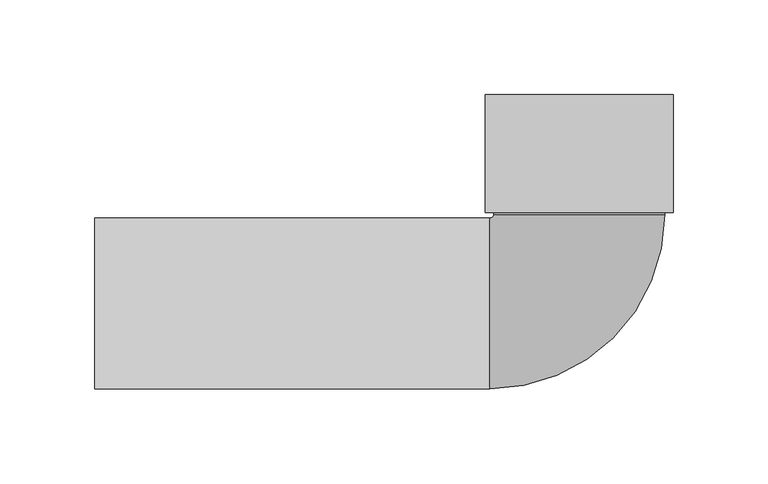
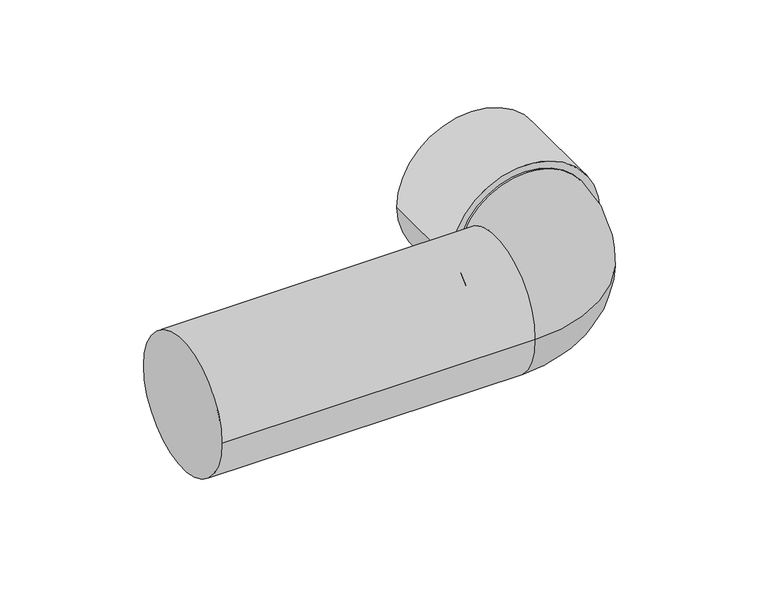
"""IFC4 building model written with IfcOpenShell, lengths in millimetres: pipe fitting geometry, NLRS_52_PIF_UN_PE aansluitbocht 90° voor wc, uittrekbaar_geb : DN90-100 / ø90-110."""

import ifcopenshell
import ifcopenshell.guid

model = None  # the IFC model being written
_history = None  # IfcOwnerHistory: only IFC2X3 demands one
_inside = {}  # id of a spatial element -> (the spatial element, [elements in it])
_under = {}  # id of a project, library or spatial element -> (it, [spatial elements below it])
_declared = {}  # id of a project -> (the project, [libraries it declares])
_typed = {}  # id of a type object -> (the type object, [elements of that type])
_made_of = {}  # id of a material, layer set ... -> (it, [elements and type objects made of it])


def new_model(schema):
    """Start an empty IFC model of exactly this schema.

    Asked for "IFC4X3", IfcOpenShell would pick the latest addendum, in which some entities
    have other attributes; the version numbers below select the first issue.
    IFC2X3 requires an IfcOwnerHistory on every rooted entity: one is made here for all.
    """
    global model, _history
    if schema == "IFC4X3":
        model = ifcopenshell.file(schema_version=(4, 3, 0, 0))
    else:
        model = ifcopenshell.file(schema=schema)
    _inside.clear()
    _under.clear()
    _declared.clear()
    _typed.clear()
    _made_of.clear()
    _history = None
    if model.schema == "IFC2X3":
        org = make("IfcOrganization", Name="unknown")
        user = make(
            "IfcPersonAndOrganization",
            ThePerson=make("IfcPerson", FamilyName="unknown"),
            TheOrganization=org,
        )
        app = make(
            "IfcApplication",
            ApplicationDeveloper=org,
            Version="unknown",
            ApplicationFullName="unknown",
            ApplicationIdentifier="unknown",
        )
        _history = make(
            "IfcOwnerHistory",
            OwningUser=user,
            OwningApplication=app,
            ChangeAction="ADDED",
            CreationDate=0,
        )
    return model


def make(cls, **values):
    """One entity of the class cls with the attributes given. An attribute that is None is left unset."""
    return model.create_entity(
        cls, **{name: value for name, value in values.items() if value is not None}
    )


def rooted(cls, **values):
    """An entity with a GlobalId (a new one), such as an element, a storey or a relation."""
    return make(cls, GlobalId=ifcopenshell.guid.new(), OwnerHistory=_history, **values)


def si_unit(unit_type, name, prefix=None):
    """IfcSIUnit, for example si_unit("LENGTHUNIT", "METRE", prefix="MILLI")."""
    return make("IfcSIUnit", UnitType=unit_type, Prefix=prefix, Name=name)


def assignment(units):
    """IfcUnitAssignment: the units of a project."""
    return None if units is None else make("IfcUnitAssignment", Units=units)


def point(xyz):
    """IfcCartesianPoint."""
    return None if xyz is None else make("IfcCartesianPoint", Coordinates=xyz)


def direction(xyz):
    """IfcDirection."""
    return None if xyz is None else make("IfcDirection", DirectionRatios=xyz)


def frame(location, z_axis=None, x_axis=None):
    """IfcAxis2Placement3D, a coordinate frame: its origin and axes. An axis left out is left unset."""
    return make(
        "IfcAxis2Placement3D",
        Location=point(location),
        Axis=direction(z_axis),
        RefDirection=direction(x_axis),
    )


def frame_2d(location, x_axis=None):
    """IfcAxis2Placement2D, a coordinate frame in the plane: its origin and x axis."""
    return make(
        "IfcAxis2Placement2D", Location=point(location), RefDirection=direction(x_axis)
    )


def origin():
    """The frame at (0, 0, 0) with its axes left unset."""
    return frame((0.0, 0.0, 0.0))


def origin_2d():
    """The frame at (0, 0) in the plane with its x axis left unset."""
    return frame_2d((0.0, 0.0))


def place(relative_to, where):
    """IfcLocalPlacement: puts the frame where relative to a parent placement (None: the world)."""
    return make(
        "IfcLocalPlacement", PlacementRelTo=relative_to, RelativePlacement=where
    )


def context(
    kind, dimensions, precision=None, world=None, true_north=None, identifier=None
):
    """IfcGeometricRepresentationContext, for example the 3D "Model" context."""
    return make(
        "IfcGeometricRepresentationContext",
        ContextIdentifier=identifier,
        ContextType=kind,
        CoordinateSpaceDimension=dimensions,
        Precision=precision,
        WorldCoordinateSystem=world,
        TrueNorth=true_north,
    )


def project(units=None, contexts=None):
    """IfcProject with its units and contexts."""
    return rooted(
        "IfcProject",
        Name="project",
        RepresentationContexts=contexts,
        UnitsInContext=assignment(units),
    )


def spatial(cls, under=None, at=None, **own):
    """A site, building, storey or space (cls), placed at a placement, below another one or the project."""
    s = rooted(cls, ObjectPlacement=at, **own)
    if under is not None:
        _under.setdefault(under.id(), (under, []))[1].append(s)
    return s


def circle_curve(where, radius):
    """IfcCircle in the frame where."""
    return make("IfcCircle", Position=where, Radius=radius)


def ellipse_curve(where, semi_axis1, semi_axis2):
    """IfcEllipse in the frame where."""
    return make(
        "IfcEllipse", Position=where, SemiAxis1=semi_axis1, SemiAxis2=semi_axis2
    )


def trimmed(basis, trim1, trim2, sense, master):
    """IfcTrimmedCurve: the piece of a basis curve between two trims."""
    return make(
        "IfcTrimmedCurve",
        BasisCurve=basis,
        Trim1=trim1,
        Trim2=trim2,
        SenseAgreement=sense,
        MasterRepresentation=master,
    )


def segment(curve, same_sense, transition):
    """IfcCompositeCurveSegment."""
    return make(
        "IfcCompositeCurveSegment",
        Transition=transition,
        SameSense=same_sense,
        ParentCurve=curve,
    )


def composite_curve(segments, self_intersect=None):
    """IfcCompositeCurve: segments joined end to end."""
    return make("IfcCompositeCurve", Segments=segments, SelfIntersect=self_intersect)


def outline(outer, holes=None, kind="AREA"):
    """IfcArbitraryClosedProfileDef: a profile drawn as a closed curve; with holes, ...WithVoids."""
    if holes is None:
        return make("IfcArbitraryClosedProfileDef", ProfileType=kind, OuterCurve=outer)
    return make(
        "IfcArbitraryProfileDefWithVoids",
        ProfileType=kind,
        OuterCurve=outer,
        InnerCurves=holes,
    )


def extrude(swept, where, along, depth):
    """IfcExtrudedAreaSolid: the profile swept, set in the frame where, extruded along a direction by depth."""
    return make(
        "IfcExtrudedAreaSolid",
        SweptArea=swept,
        Position=where,
        ExtrudedDirection=direction(along),
        Depth=depth,
    )


def shape(context_of_items, identifier, shape_type, items):
    """IfcShapeRepresentation: the items that make up one representation, for example the "Body"."""
    return make(
        "IfcShapeRepresentation",
        ContextOfItems=context_of_items,
        RepresentationIdentifier=identifier,
        RepresentationType=shape_type,
        Items=items,
    )


def source(mapping_origin, context_of_items, identifier, shape_type, items):
    """IfcRepresentationMap: a shape defined once, which mapped items show again and again."""
    return make(
        "IfcRepresentationMap",
        MappingOrigin=mapping_origin,
        MappedRepresentation=shape(context_of_items, identifier, shape_type, items),
    )


def transform(
    local_origin,
    x_axis=None,
    y_axis=None,
    z_axis=None,
    scale=None,
    scale2=None,
    scale3=None,
    uniform=True,
):
    """IfcCartesianTransformationOperator3D, or its non-uniform kind. x_axis, y_axis, z_axis: its Axis1, 2, 3."""
    if uniform:
        return make(
            "IfcCartesianTransformationOperator3D",
            Axis1=direction(x_axis),
            Axis2=direction(y_axis),
            LocalOrigin=point(local_origin),
            Scale=scale,
            Axis3=direction(z_axis),
        )
    return make(
        "IfcCartesianTransformationOperator3DnonUniform",
        Axis1=direction(x_axis),
        Axis2=direction(y_axis),
        LocalOrigin=point(local_origin),
        Scale=scale,
        Axis3=direction(z_axis),
        Scale2=scale2,
        Scale3=scale3,
    )


def mapped(mapping_source, mapping_target):
    """IfcMappedItem: shows the shape of a source again, moved by a transform."""
    return make(
        "IfcMappedItem", MappingSource=mapping_source, MappingTarget=mapping_target
    )


def made_of(thing, what):
    """Note that an element or type object is made of a material, layer set ...; save() writes the relation."""
    if what is not None:
        _made_of.setdefault(what.id(), (what, []))[1].append(thing)
    return thing


def element(
    cls,
    number,
    at=None,
    inside=None,
    cuts=None,
    type_object=None,
    material=None,
    context=None,
    identifier="Body",
    shape_type=None,
    held_by="IfcProductDefinitionShape",
    body=None,
    shapes=None,
    **own,
):
    """One element of the class cls, such as IfcWall. Its Tag is "e" and its number.

    at: its placement. inside: the storey or other place that contains it. cuts: it is an
    opening in that element (IfcRelVoidsElement). A single representation is given by context,
    identifier, shape_type and body (its items); several are given by shapes. held_by: the class
    of the entity that holds the representations. save() writes the other relations.
    """
    e = rooted(cls, Tag="e%d" % number, ObjectPlacement=at, **own)
    if body is not None:
        shapes = [shape(context, identifier, shape_type, body)]
    if shapes is not None:
        e.Representation = make(held_by, Representations=shapes)
    if inside is not None:
        _inside.setdefault(inside.id(), (inside, []))[1].append(e)
    if cuts is not None:
        rooted(
            "IfcRelVoidsElement", RelatingBuildingElement=cuts, RelatedOpeningElement=e
        )
    if type_object is not None:
        _typed.setdefault(type_object.id(), (type_object, []))[1].append(e)
    return made_of(e, material)


def aggregate(whole, parts):
    """IfcRelAggregates: a whole, such as a stair, and the parts it consists of."""
    return rooted("IfcRelAggregates", RelatingObject=whole, RelatedObjects=parts)


def save(model, path):
    """Write the relations noted so far, then the file.

    IfcRelAggregates (storeys below a building ...), IfcRelContainedInSpatialStructure (elements
    in a storey), IfcRelDefinesByType, IfcRelAssociatesMaterial and IfcRelDeclares: one each for
    every whole, place, type object, material and project.
    """
    for whole, parts in _under.values():
        aggregate(whole, parts)
    for where, things in _inside.values():
        rooted(
            "IfcRelContainedInSpatialStructure",
            RelatedElements=things,
            RelatingStructure=where,
        )
    for kind, things in _typed.values():
        rooted("IfcRelDefinesByType", RelatedObjects=things, RelatingType=kind)
    for what, things in _made_of.values():
        rooted("IfcRelAssociatesMaterial", RelatedObjects=things, RelatingMaterial=what)
    for by, libraries in _declared.values():
        rooted("IfcRelDeclares", RelatingContext=by, RelatedDefinitions=libraries)
    model.write(path)


def plane_surface(at):
    """IfcPlane: the flat surface through the origin of the frame at, square to its z axis."""
    return make("IfcPlane", Position=at)


def cylinder_surface(at, radius):
    """IfcCylindricalSurface: all points at the distance radius from the z axis of the frame at."""
    return make("IfcCylindricalSurface", Position=at, Radius=radius)


def revolved_surface(curve, axis_point, axis_direction):
    """IfcSurfaceOfRevolution: the curve turned about the line through axis_point along axis_direction."""
    return make(
        "IfcSurfaceOfRevolution",
        SweptCurve=make("IfcArbitraryOpenProfileDef", ProfileType="CURVE", Curve=curve),
        AxisPosition=make("IfcAxis1Placement", Location=point(axis_point), Axis=direction(axis_direction)),
    )


def advanced_brep(points, edges, surfaces, faces):
    """IfcAdvancedBrep: a solid bounded by faces that lie on surfaces and meet in shared edges.

    An edge is (start, end): straight between two places in points (the first is 0);
    or (start, end, curve); or (start, end, curve, False) where it runs against its curve.
    A face is (place in surfaces, loops), or (place, loops, False) where it looks against
    its surface's normal. A loop lists edges by number (the first is 1), with a minus sign
    where the edge is run from its end to its start. The first loop is the outer one.
    """
    corners = [point(p) for p in points]
    vertices = [make("IfcVertexPoint", VertexGeometry=c) for c in corners]
    made = []
    for start, end, *more in edges:
        made.append(
            make(
                "IfcEdgeCurve",
                EdgeStart=vertices[start],
                EdgeEnd=vertices[end],
                EdgeGeometry=more[0] if more else make("IfcPolyline", Points=[corners[start], corners[end]]),
                SameSense=more[1] if len(more) > 1 else True,
            )
        )
    hull = []
    for where, loops, *sense in faces:
        bounds = []
        for j, loop in enumerate(loops):
            ring = [make("IfcOrientedEdge", EdgeElement=made[abs(k) - 1], Orientation=k > 0) for k in loop]
            bounds.append(
                make(
                    "IfcFaceOuterBound" if j == 0 else "IfcFaceBound",
                    Bound=make("IfcEdgeLoop", EdgeList=ring),
                    Orientation=True,
                )
            )
        hull.append(make("IfcAdvancedFace", Bounds=bounds, FaceSurface=surfaces[where], SameSense=sense[0] if sense else True))
    return make("IfcAdvancedBrep", Outer=make("IfcClosedShell", CfsFaces=hull))


def pipe_fitting_fa588625(model_context):
    return source(origin(), model_context, "Body", "SolidModel", [
        advanced_brep(
        [(45.0, 48.0, 0.0), (-45.0, 48.0, 0.0), (-45.0, 47.0, 0.0), (0.0, 47.0, 45.0), (45.0, 47.0, 0.0), (0.0, 47.0, -45.0), (-47.0, 45.0, 0.0), (-47.0, -45.0, 0.0), (-255.0, -45.0, 0.0), (-255.0, 45.0, 0.0)],
        [
            (0, 1, circle_curve(frame((0.0, 48.0, 0.0), z_axis=(0.0, 1.0, 0.0), x_axis=(-1.0, 0.0, 0.0)), 45.0)),
            (1, 0, circle_curve(frame((0.0, 48.0, 0.0), z_axis=(0.0, 1.0, 0.0), x_axis=(-1.0, 0.0, 0.0)), 45.0)),
            (1, 2),
            (2, 3, circle_curve(frame((0.0, 47.0, 0.0), z_axis=(0.0, 1.0, 0.0), x_axis=(-1.0, 0.0, 0.0)), 45.0)),
            (3, 4, circle_curve(frame((0.0, 47.0, 0.0), z_axis=(0.0, 1.0, 0.0), x_axis=(-1.0, 0.0, 0.0)), 45.0)),
            (4, 0),
            (4, 5, circle_curve(frame((0.0, 47.0, 0.0), z_axis=(0.0, 1.0, 0.0), x_axis=(-1.0, 0.0, 0.0)), 45.0)),
            (5, 2, circle_curve(frame((0.0, 47.0, 0.0), z_axis=(0.0, 1.0, 0.0), x_axis=(-1.0, 0.0, 0.0)), 45.0)),
            (2, 6, circle_curve(frame((-47.0, 47.0, 0.0), z_axis=(0.0, 0.0, -1.0), x_axis=(0.0, -1.0, 0.0)), 2.0)),
            (6, 7, circle_curve(frame((-47.0, 0.0, 0.0), z_axis=(1.0, 0.0, 0.0), x_axis=(0.0, 1.0, 0.0)), 45.0)),
            (7, 4, circle_curve(frame((-47.0, 47.0, 0.0), z_axis=(0.0, 0.0, 1.0), x_axis=(0.0, -1.0, 0.0)), 92.0)),
            (7, 6, circle_curve(frame((-47.0, 0.0, 0.0), z_axis=(1.0, 0.0, 0.0), x_axis=(0.0, 1.0, 0.0)), 45.0)),
            (8, 9, circle_curve(frame((-255.0, 0.0, 0.0), z_axis=(-1.0, 0.0, 0.0), x_axis=(0.0, 1.0, 0.0)), 45.0)),
            (9, 8, circle_curve(frame((-255.0, 0.0, 0.0), z_axis=(-1.0, 0.0, 0.0), x_axis=(0.0, 1.0, 0.0)), 45.0)),
            (9, 6),
            (7, 8),
        ],
        [
            plane_surface(frame((0.0, 48.0, 0.0), z_axis=(0.0, 1.0, 0.0), x_axis=(0.0, 0.0, 1.0))),
            cylinder_surface(frame((0.0, 47.0, 0.0), z_axis=(0.0, -1.0, 0.0), x_axis=(-1.0, 0.0, 0.0)), 45.0),
            revolved_surface(trimmed(ellipse_curve(frame((-47.0, 0.0, 0.0), z_axis=(-1.0, 0.0, 0.0), x_axis=(0.0, 1.0, 0.0)), 45.0, 45.0), [point((-47.0, -45.0, 0.0))], [point((-47.0, 45.0, 0.0))], True, "CARTESIAN"), (-47.0, 47.0, 0.0), (0.0, 0.0, 1.0)),
            revolved_surface(trimmed(ellipse_curve(frame((-47.0, 0.0, 0.0), z_axis=(-1.0, 0.0, 0.0), x_axis=(0.0, 1.0, 0.0)), 45.0, 45.0), [point((-47.0, 45.0, 0.0))], [point((-47.0, -45.0, 0.0))], True, "CARTESIAN"), (-47.0, 47.0, 0.0), (0.0, 0.0, 1.0)),
            plane_surface(frame((-255.0, 45.0, 0.0), z_axis=(-1.0, 0.0, 0.0), x_axis=(0.0, 0.0, -1.0))),
            cylinder_surface(frame((-255.0, 0.0, 0.0), z_axis=(1.0, 0.0, 0.0), x_axis=(0.0, 1.0, 0.0)), 45.0),
        ],
        [
            (0, [[1, 2]]),
            (1, [[-2, 3, 4, 5, 6]]),
            (1, [[-1, -6, 7, 8, -3]]),
            (2, [[9, 10, 11, -5, -4]]),
            (3, [[-9, -8, -7, -11, 12]]),
            (4, [[13, 14]]),
            (5, [[-14, 15, -12, 16]]),
            (5, [[-13, -16, -10, -15]]),
        ],
    ),
        extrude(outline(composite_curve([segment(trimmed(circle_curve(origin_2d(), 49.5), [point((0.0, 49.5))], [point((0.0, -49.5))], False, "CARTESIAN"), True, "CONTINUOUS"), segment(trimmed(circle_curve(origin_2d(), 49.5), [point((0.0, -49.5))], [point((0.0, 49.5))], False, "CARTESIAN"), True, "CONTINUOUS")], self_intersect=False)), frame((0.0, 48.0, 0.0), z_axis=(0.0, 1.0, 0.0), x_axis=(0.0, 0.0, 1.0)), (0.0, 0.0, 1.0), 62.0),
    ])


if __name__ == "__main__":
    model = new_model("IFC4")
    model_context = context("Model", 3, world=origin())
    ifc_project = project(units=[si_unit("LENGTHUNIT", "METRE", prefix="MILLI")], contexts=[model_context])
    site = spatial("IfcSite", under=ifc_project)
    building = spatial("IfcBuilding", under=site)
    placement = place(None, origin())
    pipe_fitting_shape = pipe_fitting_fa588625(model_context)
    element("IfcPipeFitting", 1, ObjectType="NLRS_52_PIF_UN_PE aansluitbocht 90° voor wc, uittrekbaar_geb : DN90-100 / ø90-110", at=placement, inside=building, context=model_context, shape_type="MappedRepresentation", body=[
        mapped(pipe_fitting_shape, transform((0.0, 0.0, 0.0), x_axis=(1.0, 0.0, 0.0), y_axis=(0.0, 1.0, 0.0), z_axis=(0.0, 0.0, 1.0))),
    ])
    save(model, "model.ifc")
